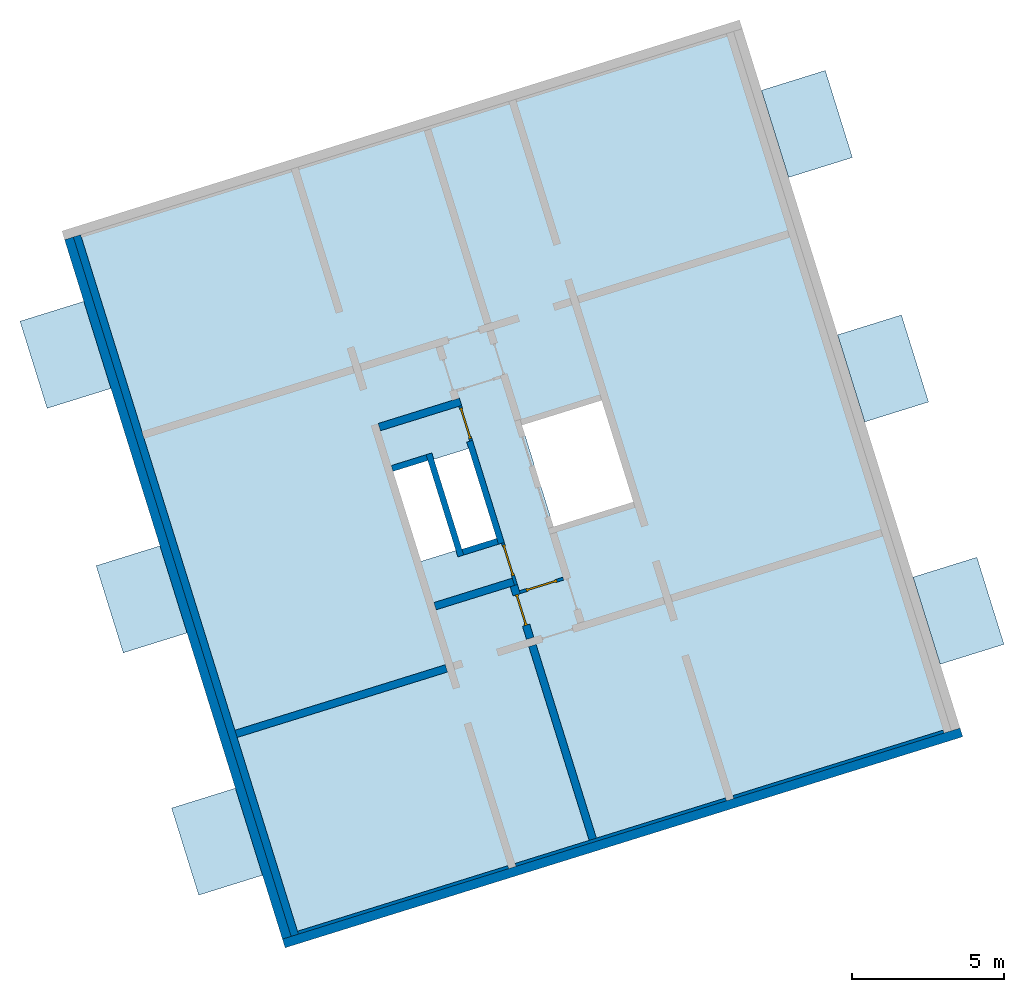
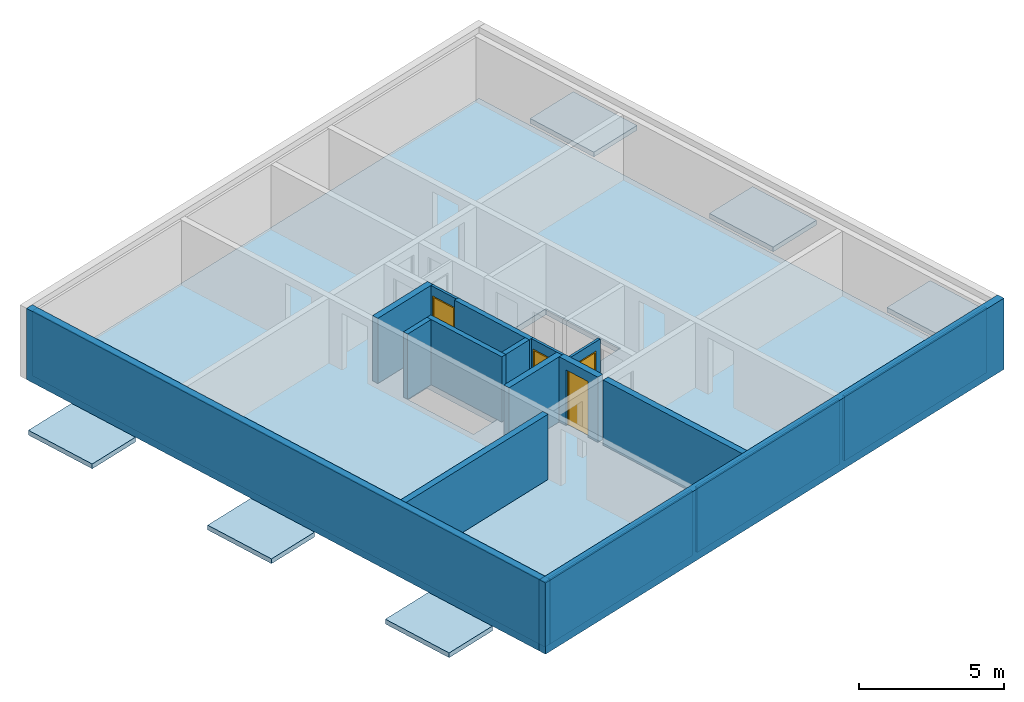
# One storey, part 1 of 3: 18 walls, 7 slabs, 4 doors, 6 openings.
"""IFC4 building model written with IfcOpenShell, lengths in metres."""

from ifc_helpers import new_model, entity, si_unit, converted_unit, direction, frame, origin, place, context, subcontext, project, spatial, indexed_curve, outline, extrude, polygons, source, transform, mapped, material, constituent, constituent_set, type_object, type_shapes, element, fill, save


model = new_model("IFC4")

# Units and contexts
model_context = context("Model", 3, precision=1e-05, world=origin(), true_north=direction((6.12323399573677e-17, 1.0)))
body_context = subcontext(model_context, "Body", "Model", "MODEL_VIEW")
ifc_project = project(units=[si_unit("LENGTHUNIT", "METRE"), si_unit("AREAUNIT", "SQUARE_METRE"), si_unit("VOLUMEUNIT", "CUBIC_METRE"), converted_unit("PLANEANGLEUNIT", "DEGREE", entity("IfcPlaneAngleMeasure", 0.0174532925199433), si_unit("PLANEANGLEUNIT", "RADIAN"), dimensions=[0, 0, 0, 0, 0, 0, 0])], contexts=[model_context])

# Site, building, storey
site_placement = place(None, frame((13.1347999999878, 11.9886000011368, 0.0), z_axis=(0.0, 0.0, 1.0), x_axis=(0.954770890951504, 0.297342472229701, 0.0)))
site = spatial("IfcSite", under=ifc_project, at=site_placement, Name="Schiehaven", CompositionType="ELEMENT")
building_placement = place(site_placement, origin())
building = spatial("IfcBuilding", under=site, at=building_placement, Name="VORM huis", CompositionType="ELEMENT")
storey_placement = place(building_placement, frame((0.0, 0.0, 24.9)))
storey = spatial("IfcBuildingStorey", under=building, at=storey_placement, Name="08 achtste verdieping", CompositionType="ELEMENT", Elevation=24.9)

# Slab, openings
ifc_material_1 = material(Name="beton_gewapend_ihw", Category="Miscellaneous")
slab_type_1 = type_object("IfcSlabType", Name="Floor:28_FL_skelet_vloer 250mm", PredefinedType="FLOOR", material=ifc_material_1)
slab_1_placement = place(storey_placement, origin())
slab_1 = element("IfcSlab", 1, at=slab_1_placement, inside=storey, type_object=slab_type_1, material=ifc_material_1, Name="Constructieve vloer", ObjectType="Vloer", PredefinedType="FLOOR", context=body_context, shape_type="SweptSolid", body=[
    extrude(outline(indexed_curve([(-12.0499999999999, -11.375), (12.0499999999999, -11.375), (12.0499999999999, 11.375), (-12.0499999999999, 11.375), (-12.0499999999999, -11.375)], self_intersect=False), holes=[indexed_curve([(1.75000000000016, 3.62500000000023), (1.75000000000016, 0.875000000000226), (-1.74999999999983, 0.875000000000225), (-1.74999999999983, 3.62500000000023), (1.75000000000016, 3.62500000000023)], self_intersect=False), indexed_curve([(-1.53999999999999, -2.22499999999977), (-1.53999999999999, -1.02499999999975), (1.76000000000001, -1.02499999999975), (1.76000000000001, -2.22499999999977), (-1.53999999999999, -2.22499999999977)], self_intersect=False), indexed_curve([(1.54000000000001, -3.62499999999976), (-1.75999999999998, -3.62499999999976), (-1.75999999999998, -2.42499999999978), (1.54000000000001, -2.42499999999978), (1.54000000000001, -3.62499999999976)], self_intersect=False)]), frame((68.7500000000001, 17.0499999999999, -0.249999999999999), z_axis=(0.0, 0.0, 1.0), x_axis=(0.0, -1.0, 0.0)), (0.0, 0.0, 1.0), 0.249999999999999),
])
opening_1_placement = place(slab_1_placement, origin())
element("IfcOpeningElement", 2, at=opening_1_placement, cuts=slab_1, Name="Constructieve vloer", PredefinedType="OPENING", context=body_context, shape_type="SweptSolid", body=[
    extrude(outline(indexed_curve([(-1.75, -1.375), (1.75, -1.375), (1.75, 1.37500000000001), (-1.75, 1.37500000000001), (-1.75, -1.375)], self_intersect=False)), frame((71.0, 17.0499999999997, -0.249999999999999), z_axis=(0.0, 0.0, 1.0), x_axis=(0.0, 1.0, 0.0)), (0.0, 0.0, 1.0), 0.249999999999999),
])
opening_2_placement = place(slab_1_placement, origin())
element("IfcOpeningElement", 3, at=opening_2_placement, cuts=slab_1, Name="Constructieve vloer", PredefinedType="OPENING", context=body_context, shape_type="SweptSolid", body=[
    extrude(outline(indexed_curve([(-1.65, -0.600000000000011), (1.65000000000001, -0.600000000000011), (1.65000000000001, 0.600000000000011), (-1.65, 0.600000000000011), (-1.65, -0.600000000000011)], self_intersect=False)), frame((67.1250000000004, 16.9399999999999, -0.249999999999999), z_axis=(0.0, 0.0, 1.0), x_axis=(0.0, -1.0, 0.0)), (0.0, 0.0, 1.0), 0.249999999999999),
])

# Slabs
ifc_material_2 = material(Name="beton_gewapend_prefab-element", Category="Miscellaneous")
slab_type_2 = type_object("IfcSlabType", Name="Floor:23_FL_skelet_balkon 200mm", PredefinedType="FLOOR", material=ifc_material_2)
slab_2_placement = place(storey_placement, origin())
element("IfcSlab", 4, at=slab_2_placement, inside=storey, type_object=slab_type_2, material=ifc_material_2, Name="Balkonvloer", ObjectType="Vloer", PredefinedType="FLOOR", context=body_context, shape_type="SweptSolid", body=[
    extrude(outline(indexed_curve([(-1.5, -1.1), (1.5, -1.1), (1.5, 1.1), (-1.5, 1.1), (-1.5, -1.1)], self_intersect=False)), frame((55.9750000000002, 25.475, 0.0), z_axis=(0.0, 0.0, -1.0), x_axis=(0.0, 1.0, 0.0)), (0.0, 0.0, 1.0), 0.199999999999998),
])
slab_3_placement = place(storey_placement, origin())
element("IfcSlab", 5, at=slab_3_placement, inside=storey, type_object=slab_type_2, material=ifc_material_2, Name="Balkonvloer", ObjectType="Vloer", PredefinedType="FLOOR", context=body_context, shape_type="SweptSolid", body=[
    extrude(outline(indexed_curve([(-1.50000000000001, -1.1), (1.49999999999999, -1.1), (1.50000000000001, 1.10000000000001), (-1.49999999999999, 1.1), (-1.50000000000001, -1.1)], self_intersect=False)), frame((55.9750000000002, 8.70000000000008, 0.0), z_axis=(0.0, 0.0, -1.0), x_axis=(0.0, 1.0, 0.0)), (0.0, 0.0, 1.0), 0.199999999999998),
])
slab_4_placement = place(storey_placement, origin())
element("IfcSlab", 6, at=slab_4_placement, inside=storey, type_object=slab_type_2, material=ifc_material_2, Name="Balkonvloer", ObjectType="Vloer", PredefinedType="FLOOR", context=body_context, shape_type="SweptSolid", body=[
    extrude(outline(indexed_curve([(-1.50000000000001, -1.1), (1.49999999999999, -1.1), (1.50000000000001, 1.1), (-1.49999999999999, 1.10000000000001), (-1.50000000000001, -1.1)], self_intersect=False)), frame((55.9750000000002, 17.0499999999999, 0.0), z_axis=(0.0, 0.0, -1.0), x_axis=(0.0, 1.0, 0.0)), (0.0, 0.0, 1.0), 0.199999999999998),
])
slab_5_placement = place(storey_placement, origin())
element("IfcSlab", 7, at=slab_5_placement, inside=storey, type_object=slab_type_2, material=ifc_material_2, Name="Balkonvloer", ObjectType="Vloer", PredefinedType="FLOOR", context=body_context, shape_type="SweptSolid", body=[
    extrude(outline(indexed_curve([(-1.50000000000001, -1.1), (1.49999999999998, -1.1), (1.50000000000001, 1.1), (-1.49999999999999, 1.1), (-1.50000000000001, -1.1)], self_intersect=False)), frame((81.5250000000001, 25.475, 0.0), z_axis=(0.0, 0.0, -1.0), x_axis=(0.0, 1.0, 0.0)), (0.0, 0.0, 1.0), 0.199999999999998),
])
slab_6_placement = place(storey_placement, origin())
element("IfcSlab", 8, at=slab_6_placement, inside=storey, type_object=slab_type_2, material=ifc_material_2, Name="Balkonvloer", ObjectType="Vloer", PredefinedType="FLOOR", context=body_context, shape_type="SweptSolid", body=[
    extrude(outline(indexed_curve([(-1.50000000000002, -1.1), (1.49999999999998, -1.1), (1.50000000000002, 1.10000000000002), (-1.49999999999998, 1.10000000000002), (-1.50000000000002, -1.1)], self_intersect=False)), frame((81.5250000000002, 8.70000000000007, 0.0), z_axis=(0.0, 0.0, -1.0), x_axis=(0.0, 1.0, 0.0)), (0.0, 0.0, 1.0), 0.199999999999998),
])
slab_7_placement = place(storey_placement, origin())
element("IfcSlab", 9, at=slab_7_placement, inside=storey, type_object=slab_type_2, material=ifc_material_2, Name="Balkonvloer", ObjectType="Vloer", PredefinedType="FLOOR", context=body_context, shape_type="SweptSolid", body=[
    extrude(outline(indexed_curve([(-1.5, -1.09999999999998), (1.5, -1.09999999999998), (1.5, 1.1), (-1.5, 1.1), (-1.5, -1.09999999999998)], self_intersect=False)), frame((81.5250000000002, 17.05, 0.0), z_axis=(0.0, 0.0, -1.0), x_axis=(0.0, 1.0, 0.0)), (0.0, 0.0, 1.0), 0.199999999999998),
])

# Walls
wall_type_1 = type_object("IfcWallType", Name="Basic Wall:28_WA_skelet_wand 250mm_gen", PredefinedType="STANDARD")
wall_1_placement = place(storey_placement, frame((57.5000000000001, 5.0, 0.0), z_axis=(0.0, 0.0, 1.0), x_axis=(0.0, 1.0, 0.0)))
element("IfcWall", 10, at=wall_1_placement, inside=storey, type_object=wall_type_1, material=ifc_material_1, Name="Constructieve wand", ObjectType="Wand", PredefinedType="NOTDEFINED", context=body_context, shape_type="SweptSolid", body=[
    extrude(outline(indexed_curve([(24.1, 0.124999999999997), (1.84706995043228e-16, 0.124999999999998), (-1.84706995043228e-16, -0.124999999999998), (24.1, -0.124999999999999), (24.1, 0.124999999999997)], self_intersect=False)), origin(), (0.0, 0.0, 1.0), 2.75),
])
ifc_material_3 = material(Name="ntb_ntb_ntb", Category="Miscellaneous")
wall_type_2 = type_object("IfcWallType", Name="Basic Wall:21_WA_gevel_binnenspouwwand 100mm_gen", PredefinedType="STANDARD")
wall_2_placement = place(storey_placement, frame((79.8750000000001, 5.04999999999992, 0.0), z_axis=(0.0, 0.0, 1.0), x_axis=(-1.0, 0.0, 0.0)))
element("IfcWall", 11, at=wall_2_placement, inside=storey, type_object=wall_type_2, material=ifc_material_3, Name="Binnenspouwblad", ObjectType="Wand", PredefinedType="NOTDEFINED", context=body_context, shape_type="SweptSolid", body=[
    extrude(outline(indexed_curve([(7.24999999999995, 0.0500000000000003), (-5.72474684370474e-18, 0.0500000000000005), (5.72474684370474e-18, -0.0500000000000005), (7.24999999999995, -0.0500000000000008), (7.24999999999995, 0.0500000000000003)], self_intersect=False)), origin(), (0.0, 0.0, 1.0), 2.75),
])
wall_3_placement = place(storey_placement, frame((65.1250000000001, 5.0499999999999, 0.0)))
element("IfcWall", 12, at=wall_3_placement, inside=storey, type_object=wall_type_2, material=ifc_material_3, Name="Binnenspouwblad", ObjectType="Wand", PredefinedType="NOTDEFINED", context=body_context, shape_type="SweptSolid", body=[
    extrude(outline(indexed_curve([(7.24999999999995, 0.0500000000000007), (1.48468503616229e-16, 0.0500000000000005), (-1.48468503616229e-16, -0.0500000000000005), (7.24999999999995, -0.0500000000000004), (7.24999999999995, 0.0500000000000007)], self_intersect=False)), origin(), (0.0, 0.0, 1.0), 2.75),
])
wall_4_placement = place(storey_placement, frame((64.875, 5.0499999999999, 0.0), z_axis=(0.0, 0.0, 1.0), x_axis=(-1.0, 0.0, 0.0)))
element("IfcWall", 13, at=wall_4_placement, inside=storey, type_object=wall_type_2, material=ifc_material_3, Name="Binnenspouwblad", ObjectType="Wand", PredefinedType="NOTDEFINED", context=body_context, shape_type="SweptSolid", body=[
    extrude(outline(indexed_curve([(7.24999999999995, 0.0500000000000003), (-5.72474684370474e-18, 0.0500000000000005), (5.72474684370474e-18, -0.0500000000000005), (7.24999999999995, -0.0500000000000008), (7.24999999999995, 0.0500000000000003)], self_intersect=False)), origin(), (0.0, 0.0, 1.0), 2.75),
])
wall_type_3 = type_object("IfcWallType", Name="Basic Wall: 300mm_gen", PredefinedType="STANDARD")
wall_5_placement = place(storey_placement, frame((57.075, 4.84999999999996, 0.0)))
element("IfcWall", 14, at=wall_5_placement, inside=storey, type_object=wall_type_3, material=ifc_material_3, Name="Gevelwand", ObjectType="Wand", PredefinedType="NOTDEFINED", context=body_context, shape_type="SweptSolid", body=[
    extrude(outline(indexed_curve([(23.35, 0.150000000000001), (-2.29983128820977e-16, 0.150000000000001), (2.29983128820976e-16, -0.15), (23.35, -0.15), (23.35, 0.150000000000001)], self_intersect=False)), origin(), (0.0, 0.0, 1.0), 3.0),
])
wall_6_placement = place(storey_placement, frame((57.2250000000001, 29.0999999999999, 0.0), z_axis=(0.0, 0.0, 1.0), x_axis=(0.0, -1.0, 0.0)))
element("IfcWall", 15, at=wall_6_placement, inside=storey, type_object=wall_type_3, material=ifc_material_3, Name="Gevelwand", ObjectType="Wand", PredefinedType="NOTDEFINED", context=body_context, shape_type="SweptSolid", body=[
    extrude(outline(indexed_curve([(24.1, 0.149999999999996), (-2.43297068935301e-16, 0.150000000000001), (2.43297068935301e-16, -0.150000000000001), (24.1, -0.150000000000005), (24.1, 0.149999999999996)], self_intersect=False)), origin(), (0.0, 0.0, 1.0), 3.0),
])
wall_type_4 = type_object("IfcWallType", Name="Basic Wall:28_WA_skelet_wand 200mm_gen", PredefinedType="STANDARD")
wall_7_placement = place(storey_placement, frame((67.8250000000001, 15.2899999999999, 0.0), z_axis=(0.0, 0.0, 1.0), x_axis=(0.0, 1.0, 0.0)))
element("IfcWall", 16, at=wall_7_placement, inside=storey, type_object=wall_type_4, material=ifc_material_2, Name="Constructieve wand", ObjectType="Wand", PredefinedType="NOTDEFINED", context=body_context, shape_type="SweptSolid", body=[
    extrude(outline(indexed_curve([(3.52, 0.100000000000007), (1.31886131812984e-16, 0.100000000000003), (-1.31886131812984e-16, -0.100000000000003), (3.52, -0.0999999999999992), (3.52, 0.100000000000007)], self_intersect=False)), origin(), (0.0, 0.0, 1.0), 2.75),
])
wall_8_placement = place(storey_placement, frame((66.4250000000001, 15.2899999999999, 0.0), z_axis=(0.0, 0.0, 1.0), x_axis=(0.0, 1.0, 0.0)))
element("IfcWall", 17, at=wall_8_placement, inside=storey, type_object=wall_type_4, material=ifc_material_2, Name="Constructieve wand", ObjectType="Wand", PredefinedType="NOTDEFINED", context=body_context, shape_type="SweptSolid", body=[
    extrude(outline(indexed_curve([(3.52, 0.100000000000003), (2.54939214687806e-16, 0.100000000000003), (-2.54939214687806e-16, -0.100000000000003), (3.52, -0.100000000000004), (3.52, 0.100000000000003)], self_intersect=False)), origin(), (0.0, 0.0, 1.0), 2.75),
])
wall_type_5 = type_object("IfcWallType", Name="Basic Wall:22_WA_afbouw_binnenwand 250mm_gen", PredefinedType="STANDARD")
wall_9_placement = place(storey_placement, frame((65.1250000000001, 20.1349999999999, 0.0)))
element("IfcWall", 18, at=wall_9_placement, inside=storey, type_object=wall_type_5, material=ifc_material_3, Name="Binnenwand", ObjectType="Wand", PredefinedType="NOTDEFINED", context=body_context, shape_type="SweptSolid", body=[
    extrude(outline(indexed_curve([(2.8, 0.125000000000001), (2.00742282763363e-17, 0.125000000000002), (-2.00742282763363e-17, -0.125000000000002), (2.8, -0.125000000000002), (2.8, 0.125000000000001)], self_intersect=False)), origin(), (0.0, 0.0, 1.0), 2.75),
])
wall_10_placement = place(storey_placement, frame((64.8750000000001, 11.8999999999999, 0.0), z_axis=(0.0, 0.0, 1.0), x_axis=(-1.0, 0.0, 0.0)))
element("IfcWall", 19, at=wall_10_placement, inside=storey, type_object=wall_type_5, material=ifc_material_3, Name="Binnenwand", ObjectType="Wand", PredefinedType="NOTDEFINED", context=body_context, shape_type="SweptSolid", body=[
    extrude(outline(indexed_curve([(7.24999999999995, 0.125000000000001), (-2.8436708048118e-16, 0.125), (2.8436708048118e-16, -0.125), (7.24999999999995, -0.124999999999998), (7.24999999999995, 0.125000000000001)], self_intersect=False)), origin(), (0.0, 0.0, 1.0), 2.75),
])
wall_11_placement = place(storey_placement, frame((67.8, 11.7749999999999, 0.0), z_axis=(0.0, 0.0, 1.0), x_axis=(0.0, -1.0, 0.0)))
element("IfcWall", 20, at=wall_11_placement, inside=storey, type_object=wall_type_5, material=ifc_material_3, Name="Binnenwand", ObjectType="Wand", PredefinedType="NOTDEFINED", context=body_context, shape_type="SweptSolid", body=[
    extrude(outline(indexed_curve([(6.67500000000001, 0.124999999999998), (-1.7762946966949e-16, 0.124999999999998), (1.7762946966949e-16, -0.124999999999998), (6.67500000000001, -0.124999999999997), (6.67500000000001, 0.124999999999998)], self_intersect=False)), origin(), (0.0, 0.0, 1.0), 2.75),
])

# Wall, opening, door
wall_12_placement = place(storey_placement, frame((67.8000000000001, 13.8399999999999, 0.0), z_axis=(0.0, 0.0, 1.0), x_axis=(0.0, -1.0, 0.0)))
wall_12 = element("IfcWall", 21, at=wall_12_placement, inside=storey, type_object=wall_type_5, material=ifc_material_3, Name="Binnenwand", ObjectType="Wand", PredefinedType="NOTDEFINED", context=body_context, shape_type="Tessellation", body=[
    polygons([(0.0, -0.125000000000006, 0.0), (0.315000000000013, -0.125000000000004, 0.0), (0.315000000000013, -0.125000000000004, 2.34999999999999), (1.36500000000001, -0.125000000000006, 2.34999999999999), (1.36500000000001, -0.125000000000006, 0.0), (1.81499999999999, -0.125000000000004, 0.0), (1.81499999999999, -0.125000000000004, 2.75), (0.0, -0.125000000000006, 2.75), (0.315000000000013, 0.124999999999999, 2.34999999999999), (0.315000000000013, 0.124999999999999, 0.0), (0.215000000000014, 0.124999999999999, 0.0), (-2.16573425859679e-15, 0.124999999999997, 0.0), (-2.16573425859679e-15, 0.124999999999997, 2.75), (0.215000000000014, 0.124999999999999, 2.75), (0.315000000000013, 0.124999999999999, 2.75), (1.81499999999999, 0.125, 2.75), (1.81499999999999, 0.125, 0.0), (1.36500000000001, 0.124999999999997, 0.0), (1.36500000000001, 0.124999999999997, 2.34999999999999), (0.0, 0.0250000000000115, 0.0), (0.0, 0.0250000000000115, 2.75)], [[[1, 2, 3, 4, 5, 6, 7, 8]], [[9, 10, 11, 12, 13, 14, 15, 16, 17, 18, 19]], [[12, 11, 10, 2, 1, 20]], [[7, 6, 17, 16]], [[8, 7, 16, 15, 14, 13, 21]], [[5, 4, 19, 18]], [[3, 2, 10, 9]], [[4, 3, 9, 19]], [[1, 8, 21, 13, 12, 20]], [[18, 17, 6, 5]]], closed=True),
])
opening_3_placement = place(wall_12_placement, frame((0.315000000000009, -0.125000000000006, 0.0)))
opening_3 = element("IfcOpeningElement", 22, at=opening_3_placement, cuts=wall_12, Name="Woningtoegangsdeur", PredefinedType="OPENING", context=body_context, shape_type="SweptSolid", body=[
    extrude(outline(indexed_curve([(2.34999999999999, 1.05), (0.0, 1.05), (0.0, 1.35358391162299e-15), (2.34999999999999, 1.35358391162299e-15), (2.34999999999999, 1.05)], self_intersect=False)), frame((0.0, 0.0, 0.0), z_axis=(0.0, 1.0, 0.0), x_axis=(0.0, 0.0, 1.0)), (0.0, 0.0, 1.0), 0.25),
])
ifc_material_4 = material(Name="PD_a_binnenwandopeningen", Category="Miscellaneous")
ifc_constituent_1 = constituent(ifc_material_4, Name="PD_a_binnenwandopeningen", Category="Miscellaneous")
ifc_material_5 = material(Name="metaal_aluminium_ntb", Category="Miscellaneous")
ifc_constituent_2 = constituent(ifc_material_5, Name="metaal_aluminium_ntb", Category="Miscellaneous")
ifc_constituent_set_1 = constituent_set(constituents=[ifc_constituent_1, ifc_constituent_2])
ifc_constituent_3 = constituent(ifc_material_4, Name="PD_a_binnenwandopeningen", Category="Miscellaneous")
ifc_constituent_4 = constituent(ifc_material_5, Name="Panel", Category="Miscellaneous")
ifc_constituent_set_2 = constituent_set(constituents=[ifc_constituent_3, ifc_constituent_4])
door_type_1 = type_object("IfcDoorType", Name="32_DO_binnendeur enkel:woningtoegangsdeur", OperationType="REVOLVING", PredefinedType="DOOR", material=ifc_constituent_set_2)
shared_shape_1 = source(origin(), body_context, "Body", "SweptSolid", [
    extrude(outline(indexed_curve([(-1.16249999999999, -0.525000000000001), (1.18749999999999, -0.525), (1.18749999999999, 0.525000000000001), (-1.16249999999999, 0.525000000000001), (-1.16249999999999, 0.475), (1.13749999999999, 0.475), (1.13749999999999, -0.475), (-1.16249999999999, -0.475), (-1.16249999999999, -0.525000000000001)], self_intersect=False)), frame((0.525000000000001, 0.0749999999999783, 1.16249999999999), z_axis=(0.0, 1.0, 0.0), x_axis=(0.0, 0.0, 1.0)), (0.0, 0.0, 1.0), 0.1),
    extrude(outline(indexed_curve([(-0.025, -0.475), (0.025, -0.475), (0.025, 0.475), (-0.025, 0.475), (-0.025, -0.475)], self_intersect=False)), frame((0.525000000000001, 0.12499999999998, 0.0), z_axis=(0.0, 0.0, 1.0), x_axis=(0.0, 1.0, 0.0)), (0.0, 0.0, 1.0), 2.29999999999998),
])
type_shapes(door_type_1, [shared_shape_1])
door_1_placement = place(opening_3_placement, origin())
door_1 = element("IfcDoor", 23, at=door_1_placement, inside=storey, type_object=door_type_1, material=ifc_constituent_set_1, Name="Woningtoegangsdeur", ObjectType="Deur", OperationType="REVOLVING", OverallHeight=2.34999999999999, OverallWidth=1.05, PredefinedType="DOOR", context=body_context, shape_type="MappedRepresentation", body=[
    mapped(shared_shape_1, transform((0.0, 0.0, 0.0), scale=1.0)),
])
fill(opening_3, door_1)

# Wall
wall_13_placement = place(storey_placement, frame((65.1250000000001, 13.9649999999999, 0.0)))
element("IfcWall", 24, at=wall_13_placement, inside=storey, type_object=wall_type_5, material=ifc_material_3, Name="Binnenwand", ObjectType="Wand", PredefinedType="NOTDEFINED", context=body_context, shape_type="SweptSolid", body=[
    extrude(outline(indexed_curve([(2.70000000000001, 0.125), (-1.06625112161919e-16, 0.125), (1.06625112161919e-16, -0.125), (2.70000000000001, -0.125), (2.70000000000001, 0.125)], self_intersect=False)), origin(), (0.0, 0.0, 1.0), 2.75),
])

# Wall, opening, door
wall_type_6 = type_object("IfcWallType", Name="Basic Wall:22_WA_afbouw_binnenwand 100mm_gen", PredefinedType="STANDARD")
wall_14_placement = place(storey_placement, frame((67.8750000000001, 13.8399999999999, 0.0), z_axis=(0.0, 0.0, 1.0), x_axis=(0.0, 1.0, 0.0)))
wall_14 = element("IfcWall", 25, at=wall_14_placement, inside=storey, type_object=wall_type_6, material=ifc_material_3, Name="Binnenwand", ObjectType="Wand", PredefinedType="NOTDEFINED", context=body_context, shape_type="Tessellation", body=[
    polygons([(1.44999999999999, -0.050000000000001, 0.0), (1.44999999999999, -0.050000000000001, 2.75), (0.0, -0.0499999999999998, 2.75), (0.0, -0.0499999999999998, 0.0), (0.324999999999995, -0.0500000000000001, 0.0), (0.324999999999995, -0.0500000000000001, 2.34999999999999), (1.375, -0.0500000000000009, 2.34999999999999), (1.375, -0.0500000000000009, 0.0), (1.44999999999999, 0.0499999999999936, 2.75), (1.44999999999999, 0.0499999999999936, 0.0), (1.375, 0.0499999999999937, 0.0), (1.375, 0.0499999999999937, 2.34999999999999), (0.324999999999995, 0.0499999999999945, 2.34999999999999), (0.324999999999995, 0.0499999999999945, 0.0), (0.249999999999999, 0.0499999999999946, 0.0), (0.0, 0.0499999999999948, 0.0), (0.0, 0.0499999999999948, 2.75), (0.249999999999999, 0.0499999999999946, 2.75)], [[[1, 2, 3, 4, 5, 6, 7, 8]], [[9, 10, 11, 12, 13, 14, 15, 16, 17, 18]], [[4, 16, 15, 14, 5]], [[2, 1, 10, 9]], [[3, 2, 9, 18, 17]], [[13, 6, 5, 14]], [[7, 12, 11, 8]], [[6, 13, 12, 7]], [[4, 3, 17, 16]], [[10, 1, 8, 11]]], closed=True),
])
opening_4_placement = place(wall_14_placement, frame((0.324999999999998, -0.0500000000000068, 0.0)))
opening_4 = element("IfcOpeningElement", 26, at=opening_4_placement, cuts=wall_14, Name="Vluchtdeur", PredefinedType="OPENING", context=body_context, shape_type="SweptSolid", body=[
    extrude(outline(indexed_curve([(2.34999999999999, 1.35358391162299e-15), (2.34999999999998, 1.05), (0.0, 1.05), (2.16573425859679e-15, 1.35358391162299e-15), (2.34999999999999, 1.35358391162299e-15)], self_intersect=False)), frame((0.0, 0.0, 0.0), z_axis=(0.0, 1.0, 0.0), x_axis=(0.0, 0.0, 1.0)), (0.0, 0.0, 1.0), 0.1),
])
ifc_constituent_5 = constituent(ifc_material_4, Name="PD_a_binnenwandopeningen", Category="Miscellaneous")
ifc_constituent_6 = constituent(ifc_material_5, Name="metaal_aluminium_ntb", Category="Miscellaneous")
ifc_constituent_set_3 = constituent_set(constituents=[ifc_constituent_5, ifc_constituent_6])
ifc_constituent_7 = constituent(ifc_material_4, Name="PD_a_binnenwandopeningen", Category="Miscellaneous")
ifc_constituent_8 = constituent(ifc_material_5, Name="Panel", Category="Miscellaneous")
ifc_constituent_set_4 = constituent_set(constituents=[ifc_constituent_7, ifc_constituent_8])
door_type_2 = type_object("IfcDoorType", Name="32_DO_binnendeur enkel:binnendeur zelfsluitend 30min", OperationType="NOTDEFINED", PredefinedType="DOOR", material=ifc_constituent_set_4)
shared_shape_2 = source(origin(), body_context, "Body", "SweptSolid", [
    extrude(outline(indexed_curve([(0.475, -1.16249999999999), (0.525, -1.16249999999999), (0.525, 1.18749999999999), (-0.525, 1.18749999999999), (-0.525, -1.16249999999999), (-0.475, -1.16249999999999), (-0.475, 1.13749999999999), (0.475, 1.13749999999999), (0.475, -1.16249999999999)], self_intersect=False)), frame((0.525000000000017, 0.100000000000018, 1.16249999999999), z_axis=(0.0, -1.0, 0.0), x_axis=(1.0, 0.0, 0.0)), (0.0, 0.0, 1.0), 0.1),
    extrude(outline(indexed_curve([(-0.475, -0.025), (0.475, -0.025), (0.475, 0.025), (-0.475, 0.025), (-0.475, -0.025)], self_intersect=False)), frame((0.525000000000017, 0.0499999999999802, 0.0)), (0.0, 0.0, 1.0), 2.29999999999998),
])
type_shapes(door_type_2, [shared_shape_2])
door_2_placement = place(opening_4_placement, origin())
door_2 = element("IfcDoor", 27, at=door_2_placement, inside=storey, type_object=door_type_2, material=ifc_constituent_set_3, Name="Vluchtdeur", ObjectType="Deur", OperationType="NOTDEFINED", OverallHeight=2.34999999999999, OverallWidth=1.05, PredefinedType="DOOR", context=body_context, shape_type="MappedRepresentation", body=[
    mapped(shared_shape_2, transform((0.0, 0.0, 0.0), scale=1.0)),
])
fill(opening_4, door_2)

wall_15_placement = place(storey_placement, frame((67.8750000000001, 20.0099999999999, 0.0), z_axis=(0.0, 0.0, 1.0), x_axis=(0.0, -1.0, 0.0)))
wall_15 = element("IfcWall", 28, at=wall_15_placement, inside=storey, type_object=wall_type_6, material=ifc_material_3, Name="Binnenwand", ObjectType="Wand", PredefinedType="NOTDEFINED", context=body_context, shape_type="Tessellation", body=[
    polygons([(1.2, -0.0500000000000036, 0.0), (1.2, -0.0500000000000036, 2.75), (0.0, -0.0500000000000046, 2.75), (0.0, -0.0500000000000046, 0.0), (0.0750000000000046, -0.0500000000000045, 0.0), (0.0750000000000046, -0.0500000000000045, 2.34999999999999), (1.125, -0.0500000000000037, 2.34999999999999), (1.125, -0.0500000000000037, 0.0), (1.2, 0.049999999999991, 2.75), (1.2, 0.049999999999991, 0.0), (1.125, 0.0499999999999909, 0.0), (1.125, 0.0499999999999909, 2.34999999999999), (0.0750000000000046, 0.0499999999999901, 2.34999999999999), (0.0750000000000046, 0.0499999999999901, 0.0), (0.0, 0.04999999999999, 0.0), (0.0, 0.04999999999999, 2.75)], [[[1, 2, 3, 4, 5, 6, 7, 8]], [[9, 10, 11, 12, 13, 14, 15, 16]], [[4, 15, 14, 5]], [[2, 1, 10, 9]], [[3, 2, 9, 16]], [[4, 3, 16, 15]], [[13, 6, 5, 14]], [[6, 13, 12, 7]], [[7, 12, 11, 8]], [[10, 1, 8, 11]]], closed=True),
])
opening_5_placement = place(wall_15_placement, frame((1.12500000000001, 0.0499999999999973, 0.0)))
opening_5 = element("IfcOpeningElement", 29, at=opening_5_placement, cuts=wall_15, Name="Vluchtdeur", PredefinedType="OPENING", context=body_context, shape_type="SweptSolid", body=[
    extrude(outline(indexed_curve([(2.34999999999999, 0.0), (2.34999999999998, 1.05), (0.0, 1.05), (2.16573425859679e-15, 0.0), (2.34999999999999, 0.0)], self_intersect=False)), frame((0.0, 0.0, 0.0), z_axis=(0.0, -1.0, 0.0), x_axis=(0.0, 0.0, 1.0)), (0.0, 0.0, 1.0), 0.1),
])
ifc_constituent_9 = constituent(ifc_material_4, Name="PD_a_binnenwandopeningen", Category="Miscellaneous")
ifc_constituent_10 = constituent(ifc_material_5, Name="metaal_aluminium_ntb", Category="Miscellaneous")
ifc_constituent_set_5 = constituent_set(constituents=[ifc_constituent_9, ifc_constituent_10])
door_3_placement = place(opening_5_placement, frame((0.0, 0.0, 0.0), z_axis=(0.0, 0.0, 1.0), x_axis=(-1.0, 0.0, 0.0)))
door_3 = element("IfcDoor", 30, at=door_3_placement, inside=storey, type_object=door_type_2, material=ifc_constituent_set_5, Name="Vluchtdeur", ObjectType="Deur", OperationType="NOTDEFINED", OverallHeight=2.34999999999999, OverallWidth=1.05, PredefinedType="DOOR", context=body_context, shape_type="MappedRepresentation", body=[
    mapped(shared_shape_2, transform((0.0, 0.0, 0.0), scale=1.0)),
])
fill(opening_5, door_3)

wall_16_placement = place(storey_placement, frame((67.9250000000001, 13.5749999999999, 0.0)))
wall_16 = element("IfcWall", 31, at=wall_16_placement, inside=storey, type_object=wall_type_6, material=ifc_material_3, Name="Binnenwand", ObjectType="Wand", PredefinedType="NOTDEFINED", context=body_context, shape_type="Tessellation", body=[
    polygons([(1.5, -0.0499999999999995, 2.75), (-1.73931956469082e-15, -0.0499999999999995, 2.75), (-1.73931956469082e-15, -0.0499999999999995, 2.34999999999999), (-1.73931956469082e-15, -0.0499999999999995, 0.0), (0.224999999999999, -0.0499999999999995, 0.0), (0.224999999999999, -0.0499999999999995, 2.34999999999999), (1.275, -0.0499999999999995, 2.34999999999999), (1.275, -0.0499999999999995, 0.0), (1.5, -0.0499999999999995, 0.0), (1.5, -0.0499999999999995, 2.34999999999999), (-1.30382056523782e-15, 0.0499999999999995, 2.75), (1.5, 0.0500000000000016, 2.75), (1.5, 0.0500000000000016, 0.0), (1.275, 0.0499999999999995, 0.0), (1.275, 0.0499999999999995, 2.34999999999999), (0.225, 0.0499999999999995, 2.34999999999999), (0.225, 0.0499999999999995, 0.0), (-1.30382056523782e-15, 0.0499999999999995, 0.0)], [[[1, 2, 3, 4, 5, 6, 7, 8, 9, 10]], [[11, 12, 13, 14, 15, 16, 17, 18]], [[4, 18, 17, 5]], [[2, 1, 12, 11]], [[16, 6, 5, 17]], [[6, 16, 15, 7]], [[7, 15, 14, 8]], [[4, 3, 2, 11, 18]], [[1, 10, 9, 13, 12]], [[13, 9, 8, 14]]], closed=True),
])
opening_6_placement = place(wall_16_placement, frame((0.225000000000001, -0.0499999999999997, 0.0)))
opening_6 = element("IfcOpeningElement", 32, at=opening_6_placement, cuts=wall_16, Name="Vluchtdeur", PredefinedType="OPENING", context=body_context, shape_type="SweptSolid", body=[
    extrude(outline(indexed_curve([(2.34999999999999, 1.05), (0.0, 1.05), (0.0, 1.06844054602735e-30), (2.34999999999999, 1.06844054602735e-30), (2.34999999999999, 1.05)], self_intersect=False)), frame((0.0, 0.0, 0.0), z_axis=(0.0, 1.0, 0.0), x_axis=(0.0, 0.0, 1.0)), (0.0, 0.0, 1.0), 0.1),
])
ifc_constituent_11 = constituent(ifc_material_4, Name="PD_a_binnenwandopeningen", Category="Miscellaneous")
ifc_constituent_12 = constituent(ifc_material_5, Name="metaal_aluminium_ntb", Category="Miscellaneous")
ifc_constituent_set_6 = constituent_set(constituents=[ifc_constituent_11, ifc_constituent_12])
ifc_constituent_13 = constituent(ifc_material_4, Name="PD_a_binnenwandopeningen", Category="Miscellaneous")
ifc_constituent_14 = constituent(ifc_material_5, Name="Panel", Category="Miscellaneous")
ifc_constituent_set_7 = constituent_set(constituents=[ifc_constituent_13, ifc_constituent_14])
door_type_3 = type_object("IfcDoorType", Name="32_DO_binnendeur enkel:binnendeur zelfsluitend 30min", OperationType="NOTDEFINED", PredefinedType="DOOR", material=ifc_constituent_set_7)
shared_shape_3 = source(origin(), body_context, "Body", "SweptSolid", [
    extrude(outline(indexed_curve([(-1.16249999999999, -0.525000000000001), (1.18749999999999, -0.525), (1.18749999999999, 0.525), (-1.16249999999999, 0.525), (-1.16249999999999, 0.475), (1.13749999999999, 0.475), (1.13749999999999, -0.475), (-1.16249999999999, -0.475), (-1.16249999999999, -0.525000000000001)], self_intersect=False)), frame((0.525000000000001, 0.0, 1.16249999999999), z_axis=(0.0, 1.0, 0.0), x_axis=(0.0, 0.0, 1.0)), (0.0, 0.0, 1.0), 0.1),
    extrude(outline(indexed_curve([(-0.025, -0.475), (0.025, -0.475), (0.025, 0.475), (-0.025, 0.475), (-0.025, -0.475)], self_intersect=False)), frame((0.525000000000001, 0.0499999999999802, 0.0), z_axis=(0.0, 0.0, 1.0), x_axis=(0.0, 1.0, 0.0)), (0.0, 0.0, 1.0), 2.29999999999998),
])
type_shapes(door_type_3, [shared_shape_3])
door_4_placement = place(opening_6_placement, origin())
door_4 = element("IfcDoor", 33, at=door_4_placement, inside=storey, type_object=door_type_3, material=ifc_constituent_set_6, Name="Vluchtdeur", ObjectType="Deur", OperationType="NOTDEFINED", OverallHeight=2.34999999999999, OverallWidth=1.05, PredefinedType="DOOR", context=body_context, shape_type="MappedRepresentation", body=[
    mapped(shared_shape_3, transform((0.0, 0.0, 0.0), scale=1.0)),
])
fill(opening_6, door_4)

# Walls
wall_type_7 = type_object("IfcWallType", Name="Basic Wall:22_WA_afbouw_binnenwand 200mm_gen", PredefinedType="STANDARD")
wall_17_placement = place(storey_placement, frame((66.5250000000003, 15.3899999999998, 0.0)))
element("IfcWall", 34, at=wall_17_placement, inside=storey, type_object=wall_type_7, material=ifc_material_3, Name="Binnenwand", ObjectType="Wand", PredefinedType="NOTDEFINED", context=body_context, shape_type="SweptSolid", body=[
    extrude(outline(indexed_curve([(1.2, 0.100000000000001), (-7.02058589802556e-16, 0.100000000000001), (7.02058589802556e-16, -0.100000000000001), (1.20000000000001, -0.100000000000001), (1.2, 0.100000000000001)], self_intersect=False)), origin(), (0.0, 0.0, 1.0), 2.75),
])
wall_18_placement = place(storey_placement, frame((65.1250000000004, 18.7099999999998, 0.0)))
element("IfcWall", 35, at=wall_18_placement, inside=storey, type_object=wall_type_7, material=ifc_material_3, Name="Binnenwand", ObjectType="Wand", PredefinedType="NOTDEFINED", context=body_context, shape_type="SweptSolid", body=[
    extrude(outline(indexed_curve([(1.2, 0.0999999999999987), (-7.02058589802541e-16, 0.0999999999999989), (7.02058589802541e-16, -0.0999999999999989), (1.20000000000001, -0.0999999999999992), (1.2, 0.0999999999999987)], self_intersect=False)), origin(), (0.0, 0.0, 1.0), 2.75),
])

save(model, "model.ifc")
